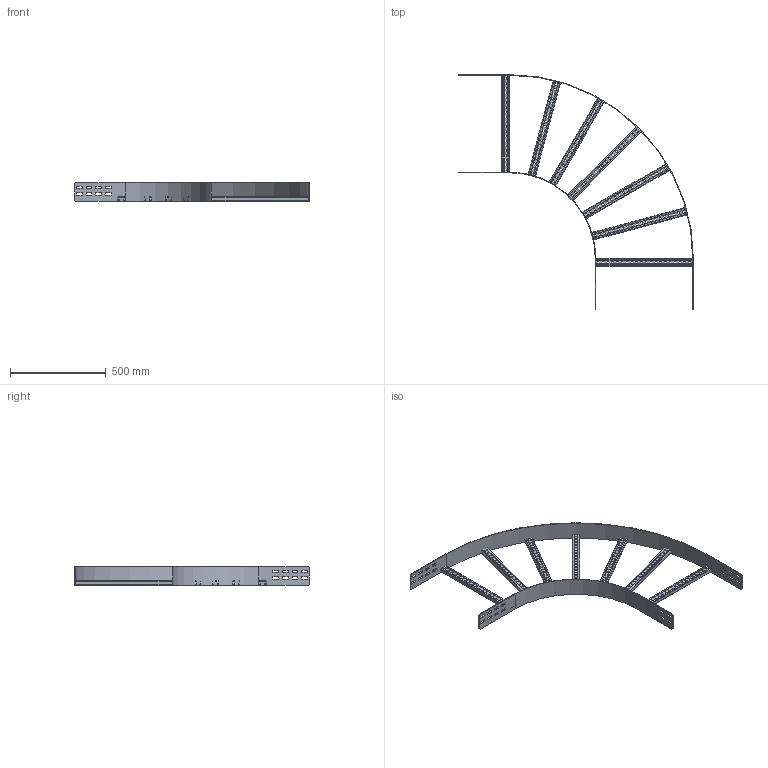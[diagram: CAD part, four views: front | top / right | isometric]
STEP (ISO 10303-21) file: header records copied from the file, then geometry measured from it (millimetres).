
FILE_DESCRIPTION(('Creo Elements/Direct Modeling STEP Export'),'2;1');
FILE_NAME('WPHB10-50-90-45.stp','2016-06-01T11:42:18',(''),(''),'PTC Creo Elements/Direct Modeling STEP processor for AP214 (Solid Model)','PTC Creo Elements/Direct Modeling 19.0C 15-Aug-2015 (C) Parametric Technology GmbH','');
FILE_SCHEMA(('AUTOMOTIVE_DESIGN { 1 0 10303 214 1 1 1 1 }'));
Length unit declared in the file: millimetre
Products named in the file (4): WPHBA_100-50; WPHBI_100; WPHBS50; WPHB10-50-90-45
Assembly tree (9 placements, depth 2):
  WPHB10-50-90-45
    WPHBS50  x7
    WPHBI_100
    WPHBA_100-50
Bounding box: 1223 x 1223 x 95 mm (x, y, z)
Volume: 1413569.4 mm3; surface area: 1336239.8 mm2
Topology: 9 solids, 9 shells, 996 faces, 2934 edges, 1956 vertices
Faces by surface type: plane 586, cylinder 410
Entity records: 9454 total; most frequent: CARTESIAN_POINT 1635, ORIENTED_EDGE 1620, DIRECTION 1504, EDGE_CURVE 810, VECTOR 686, LINE 686, VERTEX_POINT 540, AXIS2_PLACEMENT_3D 409
